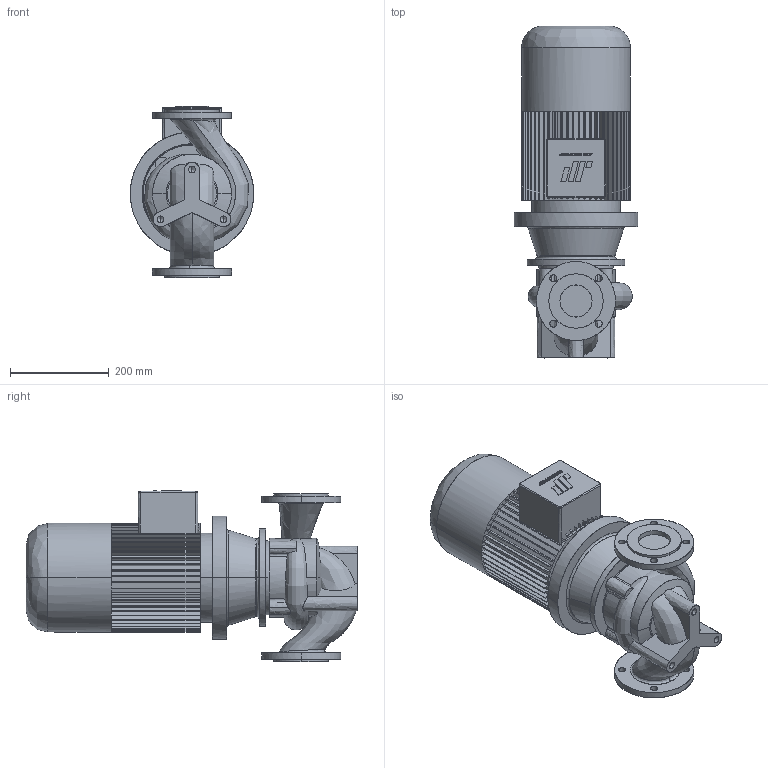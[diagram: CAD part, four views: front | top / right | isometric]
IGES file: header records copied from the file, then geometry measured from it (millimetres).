
Start section: CombiLine
Global section: file name: CLB_65-125_IEC112ML.igs; native system:  By UGS Corp.; preprocessor: XPlus GENERIC/IGES 3.0; author: Stageplaats; organization: Johnson Pump Water B.V.; date: 20070713.132203; units: millimetre
Bounding box: 250 x 672 x 347 mm (x, y, z)
Surface area: 920147.7 mm2 (no closed solid volume)
Topology: 0 solids, 0 shells, 528 faces, 3204 edges, 3198 vertices
Faces by surface type: bspline 528
